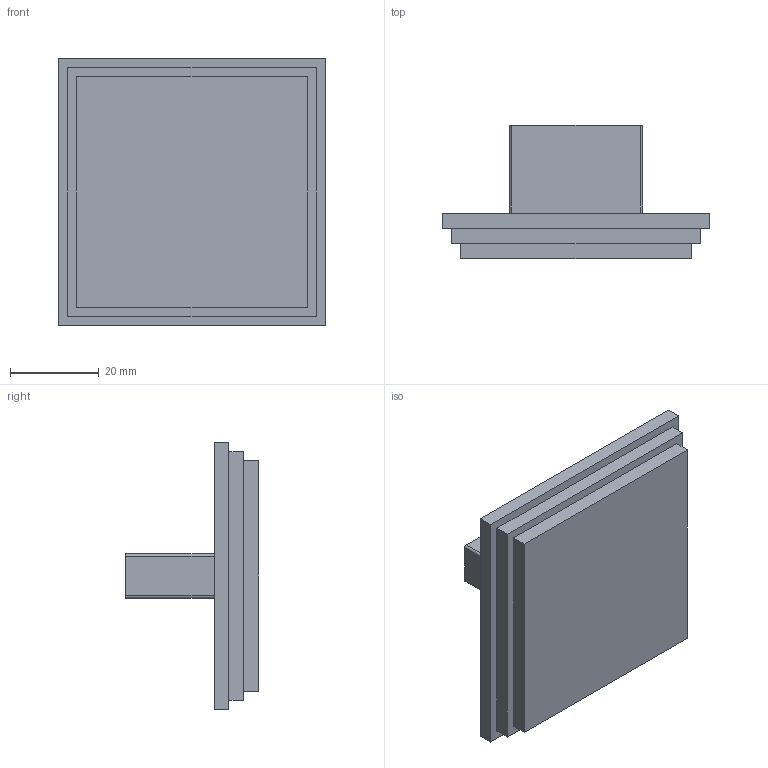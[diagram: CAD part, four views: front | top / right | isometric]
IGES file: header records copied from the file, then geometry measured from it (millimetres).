
Start section: Data from Parasolid IGES Translator 15.0.47, Copyright(c) 2006 Siemens P LM Software. All Rights Reserved.
Global section: file name: 9113312.igs; native system:  By UGS Corp.; preprocessor: XPlus GENERIC/IGES 3.0; author: Noname; organization: Noname; date: 20140122.160736; units: millimetre
Bounding box: 60 x 30 x 60 mm (x, y, z)
Surface area: 11234.9 mm2 (no closed solid volume)
Topology: 0 solids, 0 shells, 29 faces, 132 edges, 130 vertices
Faces by surface type: extrusion 23, revolution 6
